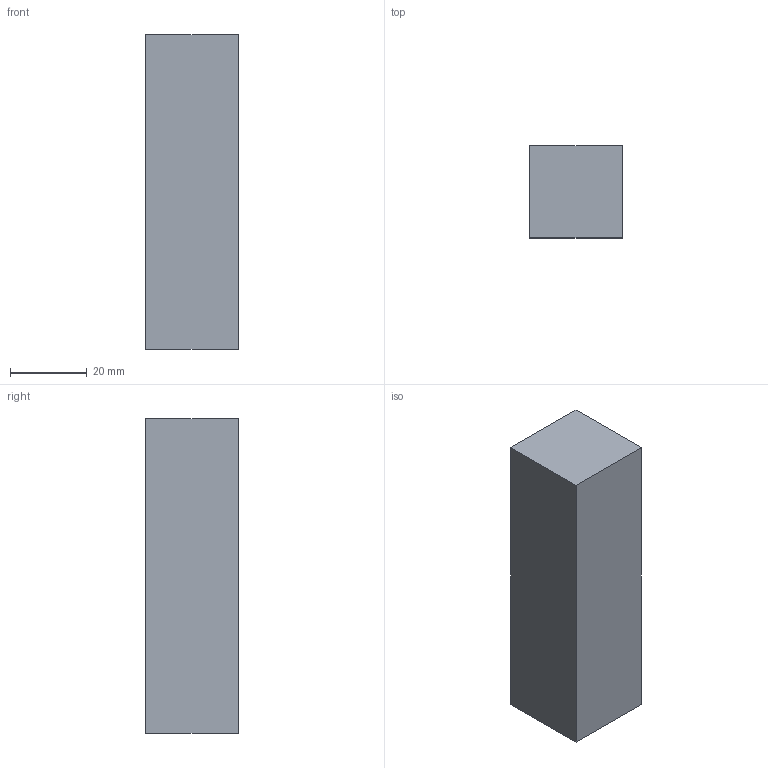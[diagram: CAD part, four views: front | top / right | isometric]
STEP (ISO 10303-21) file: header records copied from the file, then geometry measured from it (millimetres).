
FILE_DESCRIPTION(('Open CASCADE Model'),'2;1');
FILE_NAME('Open CASCADE Shape Model','2026-10-04T02:31:45',('Author'),( 'Open CASCADE'),'Open CASCADE STEP processor 8.0','Open CASCADE 8.0' ,'Unknown');
FILE_SCHEMA(('AUTOMOTIVE_DESIGN { 1 0 10303 214 1 1 1 1 }'));
Length unit declared in the file: millimetre
Products named in the file (1): Open CASCADE STEP translator 8.0 354
Bounding box: 24 x 24 x 82 mm (x, y, z)
Volume: 47232 mm3; surface area: 9024 mm2
Topology: 1 solids, 1 shells, 6 faces, 12 edges, 8 vertices
Faces by surface type: plane 6
Entity records: 322 total; most frequent: CARTESIAN_POINT 51, DIRECTION 50, LINE 36, VECTOR 36, ORIENTED_EDGE 24, PCURVE 24, DEFINITIONAL_REPRESENTATION 24, EDGE_CURVE 12
